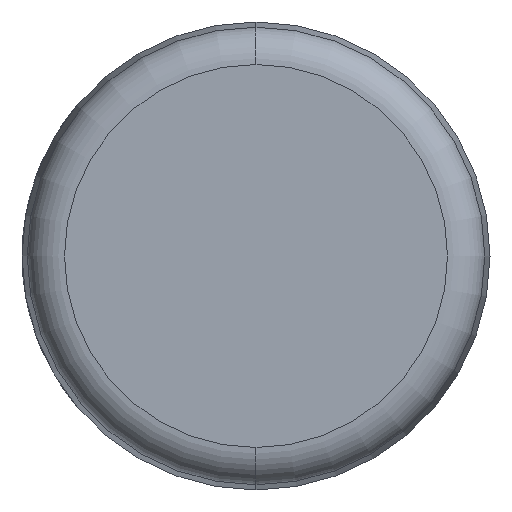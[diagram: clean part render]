
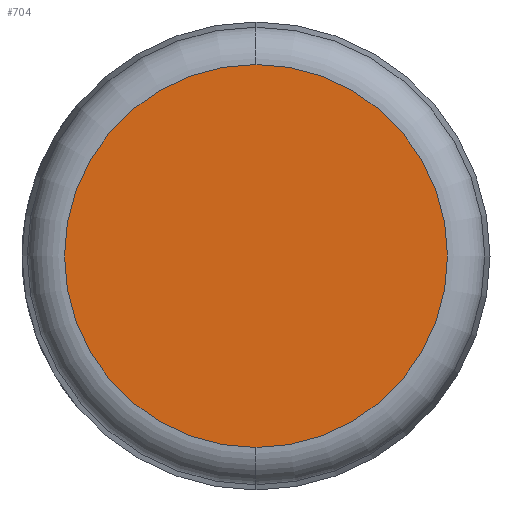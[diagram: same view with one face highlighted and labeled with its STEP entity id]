
A CAD part, left-side view. The second image highlights one B-rep face of the part: STEP entity #704.
In plain terms, the highlighted planar face has unit normal (-1, 0, 0).
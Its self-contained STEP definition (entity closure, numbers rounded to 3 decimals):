
#17 = DIRECTION ( 'NONE',  ( -1., 0., 0. ) ) ;
#59 = CARTESIAN_POINT ( 'NONE',  ( 0., 0., 0. ) ) ;
#76 = ORIENTED_EDGE ( 'NONE', *, *, #273, .T. ) ;
#86 = PLANE ( 'NONE',  #548 ) ;
#154 = DIRECTION ( 'NONE',  ( 0., 0., -1. ) ) ;
#189 = AXIS2_PLACEMENT_3D ( 'NONE', #367, #17, #427 ) ;
#235 = CIRCLE ( 'NONE', #484, 10.23 ) ;
#273 = EDGE_CURVE ( 'NONE', #481, #650, #235, .T. ) ;
#285 = CARTESIAN_POINT ( 'NONE',  ( 0., 0., -10.23 ) ) ;
#318 = CIRCLE ( 'NONE', #189, 10.23 ) ;
#320 = DIRECTION ( 'NONE',  ( 0., 0., -1. ) ) ;
#323 = EDGE_LOOP ( 'NONE', ( #76, #673 ) ) ;
#367 = CARTESIAN_POINT ( 'NONE',  ( 0., 0., 0. ) ) ;
#427 = DIRECTION ( 'NONE',  ( 0., 0., -1. ) ) ;
#449 = FACE_OUTER_BOUND ( 'NONE', #323, .T. ) ;
#481 = VERTEX_POINT ( 'NONE', #285 ) ;
#484 = AXIS2_PLACEMENT_3D ( 'NONE', #59, #494, #154 ) ;
#491 = CARTESIAN_POINT ( 'NONE',  ( 0., 0., 0. ) ) ;
#494 = DIRECTION ( 'NONE',  ( -1., 0., 0. ) ) ;
#548 = AXIS2_PLACEMENT_3D ( 'NONE', #491, #672, #320 ) ;
#650 = VERTEX_POINT ( 'NONE', #718 ) ;
#658 = EDGE_CURVE ( 'NONE', #650, #481, #318, .T. ) ;
#672 = DIRECTION ( 'NONE',  ( 1., 0., 0. ) ) ;
#673 = ORIENTED_EDGE ( 'NONE', *, *, #658, .T. ) ;
#704 = ADVANCED_FACE ( 'NONE', ( #449 ), #86, .F. ) ;
#718 = CARTESIAN_POINT ( 'NONE',  ( 0., 0., 10.23 ) ) ;
